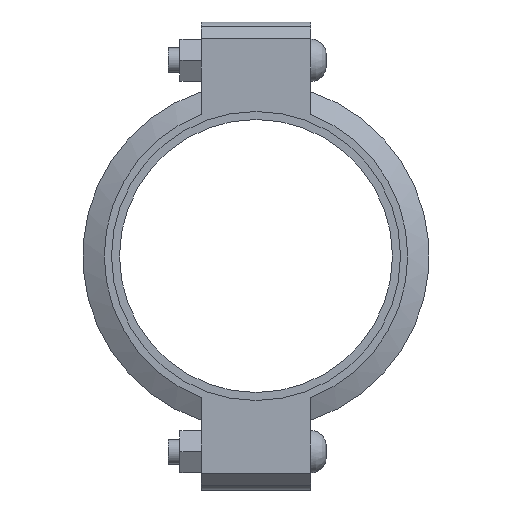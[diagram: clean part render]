
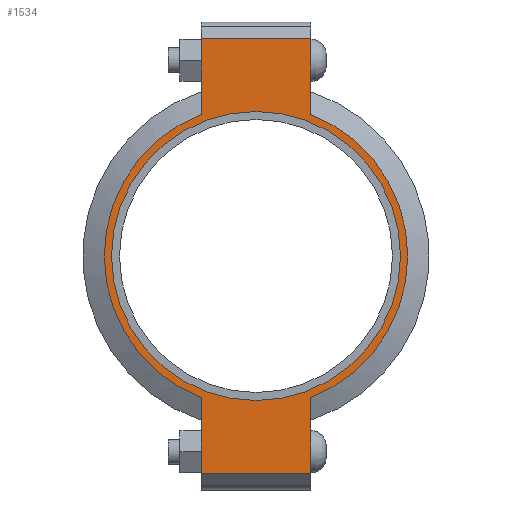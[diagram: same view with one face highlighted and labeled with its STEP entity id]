
A CAD part, left-side view. The second image highlights one B-rep face of the part: STEP entity #1534.
In plain terms, the highlighted planar face has unit normal (-1, 0, 0) as drawn and (0, 0, 1) by its records, which use the part's own axes.
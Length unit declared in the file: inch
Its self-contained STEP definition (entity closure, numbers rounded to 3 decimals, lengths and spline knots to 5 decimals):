
#158=LINE('',#2686,#251);
#166=LINE('',#2722,#259);
#173=LINE('',#2743,#266);
#182=LINE('',#2775,#275);
#183=LINE('',#2779,#276);
#184=LINE('',#2781,#277);
#251=VECTOR('',#2194,0.3937);
#259=VECTOR('',#2210,0.3937);
#266=VECTOR('',#2229,0.3937);
#275=VECTOR('',#2254,0.3937);
#276=VECTOR('',#2259,0.3937);
#277=VECTOR('',#2260,0.3937);
#333=FACE_BOUND('',#511,.T.);
#405=FACE_OUTER_BOUND('',#510,.T.);
#510=EDGE_LOOP('',(#1275,#1276,#1277,#1278,#1279,#1280,#1281,#1282));
#511=EDGE_LOOP('',(#1283));
#583=CIRCLE('',#1762,4.3125);
#609=CIRCLE('',#1821,4.53);
#610=CIRCLE('',#1822,4.53);
#675=VERTEX_POINT('',#2502);
#718=VERTEX_POINT('',#2683);
#719=VERTEX_POINT('',#2685);
#730=VERTEX_POINT('',#2717);
#731=VERTEX_POINT('',#2721);
#738=VERTEX_POINT('',#2740);
#739=VERTEX_POINT('',#2742);
#749=VERTEX_POINT('',#2778);
#750=VERTEX_POINT('',#2780);
#831=EDGE_CURVE('',#675,#675,#583,.T.);
#892=EDGE_CURVE('',#719,#718,#158,.T.);
#906=EDGE_CURVE('',#731,#730,#166,.T.);
#916=EDGE_CURVE('',#739,#738,#173,.T.);
#931=EDGE_CURVE('',#731,#718,#182,.T.);
#932=EDGE_CURVE('',#730,#739,#609,.T.);
#933=EDGE_CURVE('',#749,#738,#183,.T.);
#934=EDGE_CURVE('',#749,#750,#184,.T.);
#935=EDGE_CURVE('',#750,#719,#610,.T.);
#1275=ORIENTED_EDGE('',*,*,#931,.F.);
#1276=ORIENTED_EDGE('',*,*,#906,.T.);
#1277=ORIENTED_EDGE('',*,*,#932,.T.);
#1278=ORIENTED_EDGE('',*,*,#916,.T.);
#1279=ORIENTED_EDGE('',*,*,#933,.F.);
#1280=ORIENTED_EDGE('',*,*,#934,.T.);
#1281=ORIENTED_EDGE('',*,*,#935,.T.);
#1282=ORIENTED_EDGE('',*,*,#892,.T.);
#1283=ORIENTED_EDGE('',*,*,#831,.T.);
#1376=PLANE('',#1820);
#1534=ADVANCED_FACE('',(#405,#333),#1376,.T.);
#1762=AXIS2_PLACEMENT_3D('',#2504,#2070,#2071);
#1820=AXIS2_PLACEMENT_3D('',#2776,#2255,#2256);
#1821=AXIS2_PLACEMENT_3D('',#2777,#2257,#2258);
#1822=AXIS2_PLACEMENT_3D('',#2782,#2261,#2262);
#2070=DIRECTION('center_axis',(0.,0.,-1.));
#2071=DIRECTION('ref_axis',(1.,0.,0.));
#2194=DIRECTION('',(1.,0.,0.));
#2210=DIRECTION('',(-1.,0.,0.));
#2229=DIRECTION('',(-1.,0.,0.));
#2254=DIRECTION('',(0.,-1.,0.));
#2255=DIRECTION('center_axis',(0.,0.,1.));
#2256=DIRECTION('ref_axis',(-1.,0.,0.));
#2257=DIRECTION('center_axis',(0.,0.,1.));
#2258=DIRECTION('ref_axis',(1.,0.,0.));
#2259=DIRECTION('',(0.,1.,0.));
#2260=DIRECTION('',(1.,0.,0.));
#2261=DIRECTION('center_axis',(0.,0.,1.));
#2262=DIRECTION('ref_axis',(1.,0.,0.));
#2502=CARTESIAN_POINT('',(-4.3125,0.,1.16));
#2504=CARTESIAN_POINT('Origin',(0.,0.,1.16));
#2683=CARTESIAN_POINT('',(6.485,-1.63,1.16));
#2685=CARTESIAN_POINT('',(4.22658,-1.63,1.16));
#2686=CARTESIAN_POINT('',(6.985,-1.63,1.16));
#2717=CARTESIAN_POINT('',(4.22658,1.63,1.16));
#2721=CARTESIAN_POINT('',(6.485,1.63,1.16));
#2722=CARTESIAN_POINT('',(-6.985,1.63,1.16));
#2740=CARTESIAN_POINT('',(-6.485,1.63,1.16));
#2742=CARTESIAN_POINT('',(-4.22658,1.63,1.16));
#2743=CARTESIAN_POINT('',(-6.985,1.63,1.16));
#2775=CARTESIAN_POINT('',(6.485,-0.815,1.16));
#2776=CARTESIAN_POINT('Origin',(0.,0.,
1.16));
#2777=CARTESIAN_POINT('Origin',(0.,0.,1.16));
#2778=CARTESIAN_POINT('',(-6.485,-1.63,1.16));
#2779=CARTESIAN_POINT('',(-6.485,0.815,1.16));
#2780=CARTESIAN_POINT('',(-4.22658,-1.63,1.16));
#2781=CARTESIAN_POINT('',(6.985,-1.63,1.16));
#2782=CARTESIAN_POINT('Origin',(0.,0.,1.16));
